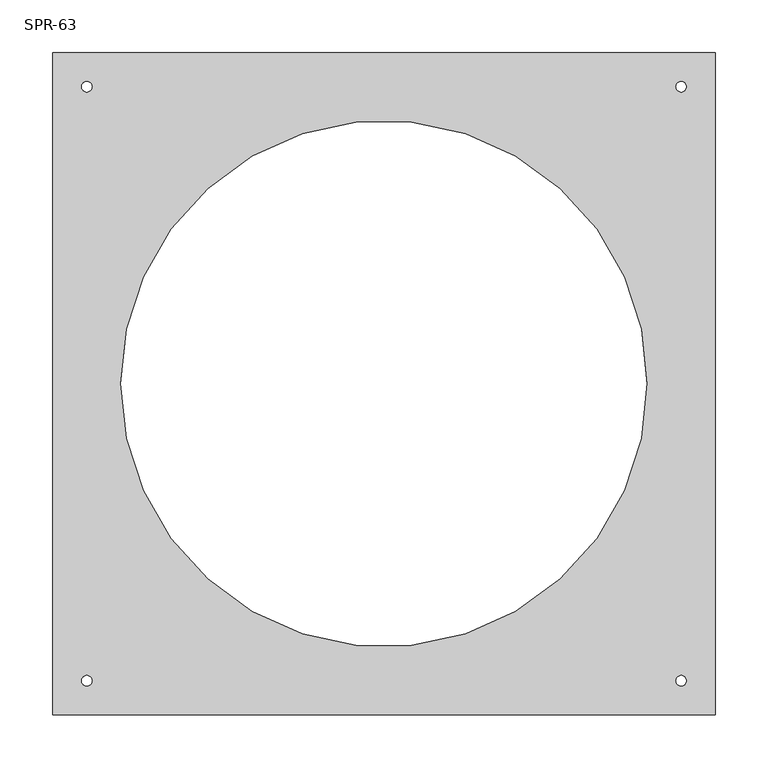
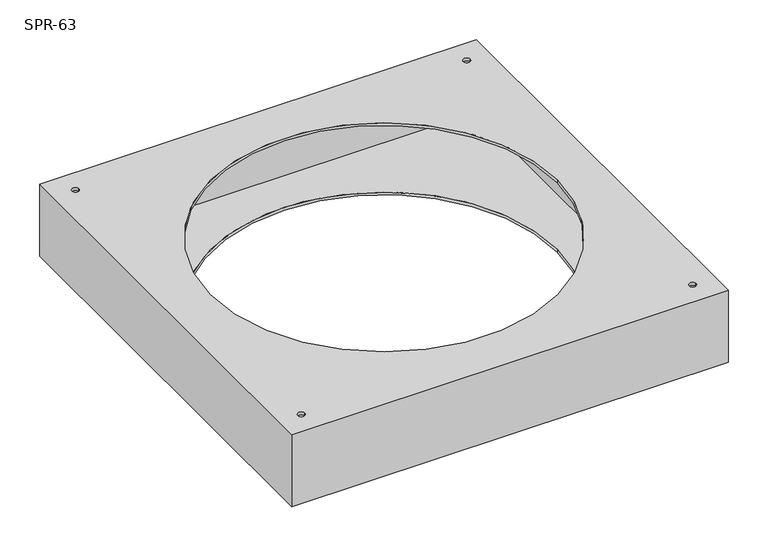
"""IFC4 building model written with IfcOpenShell, lengths in millimetres: damper geometry, СВ_КлапанИнерционный_КрышныйПрямоугольный_30-100_SPR : SPR-63."""

from ifc_helpers import new_model, si_unit, frame, origin, place, context, project, spatial, polyline, circle_curve, source, transform, mapped, element, save
from ifc_brep_helpers import plane_surface, revolved_surface, advanced_brep


def spr_63_234a094d(model_context):
    return source(origin(), model_context, "Body", "AdvancedBrep", [
        advanced_brep(
        [(315.0, 315.0, 0.0), (-315.0, 315.0, 0.0), (-315.0, -315.0, 0.0), (315.0, -315.0, 0.0), (-250.0, 0.0, 0.0), (250.0, 0.0, 0.0), (-277.5, -282.5, 0.0), (-287.5, -282.5, 0.0), (287.5, -282.5, 0.0), (277.5, -282.5, 0.0), (287.5, 282.5, 0.0), (277.5, 282.5, 0.0), (-277.5, 282.5, 0.0), (-287.5, 282.5, 0.0), (315.0, 315.0, -110.0), (315.0, -315.0, -110.0), (-315.0, -315.0, -110.0), (-315.0, 315.0, -110.0), (-250.0, 0.0, -110.0), (250.0, 0.0, -110.0), (-287.5, -282.5, -110.0), (-277.5, -282.5, -110.0), (277.5, -282.5, -110.0), (287.5, -282.5, -110.0), (277.5, 282.5, -110.0), (287.5, 282.5, -110.0), (-287.5, 282.5, -110.0), (-277.5, 282.5, -110.0), (-250.0, 0.0, -4.0), (250.0, 0.0, -4.0), (250.0, 0.0, -106.0), (-250.0, 0.0, -106.0), (310.0, 310.0, -4.0), (310.0, -310.0, -4.0), (-310.0, -310.0, -4.0), (-310.0, 310.0, -4.0), (-287.5, -282.5, -4.0), (-277.5, -282.5, -4.0), (277.5, -282.5, -4.0), (287.5, -282.5, -4.0), (277.5, 282.5, -4.0), (287.5, 282.5, -4.0), (-287.5, 282.5, -4.0), (-277.5, 282.5, -4.0), (310.0, 310.0, -106.0), (-310.0, 310.0, -106.0), (-310.0, -310.0, -106.0), (310.0, -310.0, -106.0), (-277.5, -282.5, -106.0), (-287.5, -282.5, -106.0), (287.5, -282.5, -106.0), (277.5, -282.5, -106.0), (287.5, 282.5, -106.0), (277.5, 282.5, -106.0), (-277.5, 282.5, -106.0), (-287.5, 282.5, -106.0)],
        [
            (0, 1),
            (1, 2),
            (2, 3),
            (3, 0),
            (4, 5, circle_curve(frame((0.0, 0.0, 0.0), z_axis=(0.0, 0.0, -1.0), x_axis=(1.0, 0.0, 0.0)), 250.0)),
            (5, 4, circle_curve(frame((0.0, 0.0, 0.0), z_axis=(0.0, 0.0, -1.0), x_axis=(1.0, 0.0, 0.0)), 250.0)),
            (6, 7, circle_curve(frame((-282.5, -282.5, 0.0), z_axis=(0.0, 0.0, -1.0), x_axis=(1.0, 0.0, 0.0)), 5.0)),
            (7, 6, circle_curve(frame((-282.5, -282.5, 0.0), z_axis=(0.0, 0.0, -1.0), x_axis=(1.0, 0.0, 0.0)), 5.0)),
            (8, 9, circle_curve(frame((282.5, -282.5, 0.0), z_axis=(0.0, 0.0, -1.0), x_axis=(1.0, 0.0, 0.0)), 5.0)),
            (9, 8, circle_curve(frame((282.5, -282.5, 0.0), z_axis=(0.0, 0.0, -1.0), x_axis=(1.0, 0.0, 0.0)), 5.0)),
            (10, 11, circle_curve(frame((282.5, 282.5, 0.0), z_axis=(0.0, 0.0, -1.0), x_axis=(1.0, 0.0, 0.0)), 5.0)),
            (11, 10, circle_curve(frame((282.5, 282.5, 0.0), z_axis=(0.0, 0.0, -1.0), x_axis=(1.0, 0.0, 0.0)), 5.0)),
            (12, 13, circle_curve(frame((-282.5, 282.5, 0.0), z_axis=(0.0, 0.0, -1.0), x_axis=(1.0, 0.0, 0.0)), 5.0)),
            (13, 12, circle_curve(frame((-282.5, 282.5, 0.0), z_axis=(0.0, 0.0, -1.0), x_axis=(1.0, 0.0, 0.0)), 5.0)),
            (14, 15),
            (15, 16),
            (16, 17),
            (17, 14),
            (18, 19, circle_curve(frame((0.0, 0.0, -110.0), z_axis=(0.0, 0.0, 1.0), x_axis=(1.0, 0.0, 0.0)), 250.0)),
            (19, 18, circle_curve(frame((0.0, 0.0, -110.0), z_axis=(0.0, 0.0, 1.0), x_axis=(1.0, 0.0, 0.0)), 250.0)),
            (20, 21, circle_curve(frame((-282.5, -282.5, -110.0), z_axis=(0.0, 0.0, 1.0), x_axis=(1.0, 0.0, 0.0)), 5.0)),
            (21, 20, circle_curve(frame((-282.5, -282.5, -110.0), z_axis=(0.0, 0.0, 1.0), x_axis=(1.0, 0.0, 0.0)), 5.0)),
            (22, 23, circle_curve(frame((282.5, -282.5, -110.0), z_axis=(0.0, 0.0, 1.0), x_axis=(1.0, 0.0, 0.0)), 5.0)),
            (23, 22, circle_curve(frame((282.5, -282.5, -110.0), z_axis=(0.0, 0.0, 1.0), x_axis=(1.0, 0.0, 0.0)), 5.0)),
            (24, 25, circle_curve(frame((282.5, 282.5, -110.0), z_axis=(0.0, 0.0, 1.0), x_axis=(1.0, 0.0, 0.0)), 5.0)),
            (25, 24, circle_curve(frame((282.5, 282.5, -110.0), z_axis=(0.0, 0.0, 1.0), x_axis=(1.0, 0.0, 0.0)), 5.0)),
            (26, 27, circle_curve(frame((-282.5, 282.5, -110.0), z_axis=(0.0, 0.0, 1.0), x_axis=(1.0, 0.0, 0.0)), 5.0)),
            (27, 26, circle_curve(frame((-282.5, 282.5, -110.0), z_axis=(0.0, 0.0, 1.0), x_axis=(1.0, 0.0, 0.0)), 5.0)),
            (0, 14),
            (17, 1),
            (16, 2),
            (15, 3),
            (4, 28),
            (28, 29, circle_curve(frame((0.0, 0.0, -4.0), z_axis=(0.0, 0.0, -1.0), x_axis=(1.0, 0.0, 0.0)), 250.0)),
            (29, 5),
            (19, 30),
            (30, 31, circle_curve(frame((0.0, 0.0, -106.0), z_axis=(0.0, 0.0, 1.0), x_axis=(1.0, 0.0, 0.0)), 250.0)),
            (31, 18),
            (29, 28, circle_curve(frame((0.0, 0.0, -4.0), z_axis=(0.0, 0.0, -1.0), x_axis=(1.0, 0.0, 0.0)), 250.0)),
            (31, 30, circle_curve(frame((0.0, 0.0, -106.0), z_axis=(0.0, 0.0, 1.0), x_axis=(1.0, 0.0, 0.0)), 250.0)),
            (32, 33),
            (33, 34),
            (34, 35),
            (35, 32),
            (36, 37, circle_curve(frame((-282.5, -282.5, -4.0), z_axis=(0.0, 0.0, 1.0), x_axis=(1.0, 0.0, 0.0)), 5.0)),
            (37, 36, circle_curve(frame((-282.5, -282.5, -4.0), z_axis=(0.0, 0.0, 1.0), x_axis=(1.0, 0.0, 0.0)), 5.0)),
            (38, 39, circle_curve(frame((282.5, -282.5, -4.0), z_axis=(0.0, 0.0, 1.0), x_axis=(1.0, 0.0, 0.0)), 5.0)),
            (39, 38, circle_curve(frame((282.5, -282.5, -4.0), z_axis=(0.0, 0.0, 1.0), x_axis=(1.0, 0.0, 0.0)), 5.0)),
            (40, 41, circle_curve(frame((282.5, 282.5, -4.0), z_axis=(0.0, 0.0, 1.0), x_axis=(1.0, 0.0, 0.0)), 5.0)),
            (41, 40, circle_curve(frame((282.5, 282.5, -4.0), z_axis=(0.0, 0.0, 1.0), x_axis=(1.0, 0.0, 0.0)), 5.0)),
            (42, 43, circle_curve(frame((-282.5, 282.5, -4.0), z_axis=(0.0, 0.0, 1.0), x_axis=(1.0, 0.0, 0.0)), 5.0)),
            (43, 42, circle_curve(frame((-282.5, 282.5, -4.0), z_axis=(0.0, 0.0, 1.0), x_axis=(1.0, 0.0, 0.0)), 5.0)),
            (44, 45),
            (45, 46),
            (46, 47),
            (47, 44),
            (48, 49, circle_curve(frame((-282.5, -282.5, -106.0), z_axis=(0.0, 0.0, -1.0), x_axis=(1.0, 0.0, 0.0)), 5.0)),
            (49, 48, circle_curve(frame((-282.5, -282.5, -106.0), z_axis=(0.0, 0.0, -1.0), x_axis=(1.0, 0.0, 0.0)), 5.0)),
            (50, 51, circle_curve(frame((282.5, -282.5, -106.0), z_axis=(0.0, 0.0, -1.0), x_axis=(1.0, 0.0, 0.0)), 5.0)),
            (51, 50, circle_curve(frame((282.5, -282.5, -106.0), z_axis=(0.0, 0.0, -1.0), x_axis=(1.0, 0.0, 0.0)), 5.0)),
            (52, 53, circle_curve(frame((282.5, 282.5, -106.0), z_axis=(0.0, 0.0, -1.0), x_axis=(1.0, 0.0, 0.0)), 5.0)),
            (53, 52, circle_curve(frame((282.5, 282.5, -106.0), z_axis=(0.0, 0.0, -1.0), x_axis=(1.0, 0.0, 0.0)), 5.0)),
            (54, 55, circle_curve(frame((-282.5, 282.5, -106.0), z_axis=(0.0, 0.0, -1.0), x_axis=(1.0, 0.0, 0.0)), 5.0)),
            (55, 54, circle_curve(frame((-282.5, 282.5, -106.0), z_axis=(0.0, 0.0, -1.0), x_axis=(1.0, 0.0, 0.0)), 5.0)),
            (35, 45),
            (44, 32),
            (34, 46),
            (33, 47),
            (36, 7),
            (6, 37),
            (20, 49),
            (48, 21),
            (38, 9),
            (8, 39),
            (22, 51),
            (50, 23),
            (40, 11),
            (10, 41),
            (24, 53),
            (52, 25),
            (42, 13),
            (12, 43),
            (26, 55),
            (54, 27),
        ],
        [
            plane_surface(frame((-315.0, 315.0, 0.0), z_axis=(0.0, 0.0, 1.0), x_axis=(-1.0, 0.0, 0.0))),
            plane_surface(frame((-315.0, 315.0, -110.0), z_axis=(0.0, 0.0, -1.0), x_axis=(1.0, 0.0, 0.0))),
            plane_surface(frame((315.0, 315.0, 0.0), z_axis=(0.0, 1.0, 0.0), x_axis=(0.0, 0.0, -1.0))),
            plane_surface(frame((-315.0, 315.0, 0.0), z_axis=(-1.0, 0.0, 0.0), x_axis=(0.0, 0.0, -1.0))),
            plane_surface(frame((-315.0, -315.0, 0.0), z_axis=(0.0, -1.0, 0.0), x_axis=(0.0, 0.0, -1.0))),
            plane_surface(frame((315.0, -315.0, 0.0), z_axis=(1.0, 0.0, 0.0), x_axis=(0.0, 0.0, -1.0))),
            revolved_surface(polyline([(250.0, 0.0, -4.0), (250.0, 0.0, 0.0)]), (0.0, 0.0, 0.0), (0.0, 0.0, -1.0)),
            revolved_surface(polyline([(250.0, 0.0, -110.0), (250.0, 0.0, -106.0)]), (0.0, 0.0, 0.0), (0.0, 0.0, -1.0)),
            plane_surface(frame((-310.0, 310.0, -4.0), z_axis=(0.0, 0.0, -1.0), x_axis=(-1.0, 0.0, 0.0))),
            plane_surface(frame((-310.0, 310.0, -106.0), z_axis=(0.0, 0.0, 1.0), x_axis=(1.0, 0.0, 0.0))),
            plane_surface(frame((310.0, 310.0, -4.0), z_axis=(0.0, -1.0, 0.0), x_axis=(0.0, 0.0, -1.0))),
            plane_surface(frame((-310.0, 310.0, -4.0), z_axis=(1.0, 0.0, 0.0), x_axis=(0.0, 0.0, -1.0))),
            plane_surface(frame((-310.0, -310.0, -4.0), z_axis=(0.0, 1.0, 0.0), x_axis=(0.0, 0.0, -1.0))),
            plane_surface(frame((310.0, -310.0, -4.0), z_axis=(-1.0, 0.0, 0.0), x_axis=(0.0, 0.0, -1.0))),
            revolved_surface(polyline([(-277.5, -282.5, 0.0), (-277.5, -282.5, -4.0)]), (-282.5, -282.5, -110.0), (0.0, 0.0, 1.0)),
            revolved_surface(polyline([(-277.5, -282.5, -106.0), (-277.5, -282.5, -110.0)]), (-282.5, -282.5, -110.0), (0.0, 0.0, 1.0)),
            revolved_surface(polyline([(287.5, -282.5, 0.0), (287.5, -282.5, -4.0)]), (282.5, -282.5, 0.0), (0.0, 0.0, 1.0)),
            revolved_surface(polyline([(287.5, -282.5, -106.0), (287.5, -282.5, -110.0)]), (282.5, -282.5, 0.0), (0.0, 0.0, 1.0)),
            revolved_surface(polyline([(287.5, 282.5, 0.0), (287.5, 282.5, -4.0)]), (282.5, 282.5, 0.0), (0.0, 0.0, 1.0)),
            revolved_surface(polyline([(287.5, 282.5, -106.0), (287.5, 282.5, -110.0)]), (282.5, 282.5, 0.0), (0.0, 0.0, 1.0)),
            revolved_surface(polyline([(-277.5, 282.5, 0.0), (-277.5, 282.5, -4.0)]), (-282.5, 282.5, 0.0), (0.0, 0.0, 1.0)),
            revolved_surface(polyline([(-277.5, 282.5, -106.0), (-277.5, 282.5, -110.0)]), (-282.5, 282.5, 0.0), (0.0, 0.0, 1.0)),
        ],
        [
            (0, [[1, 2, 3, 4], [5, 6], [7, 8], [9, 10], [11, 12], [13, 14]]),
            (1, [[15, 16, 17, 18], [19, 20], [21, 22], [23, 24], [25, 26], [27, 28]]),
            (2, [[-1, 29, -18, 30]]),
            (3, [[-2, -30, -17, 31]]),
            (4, [[-3, -31, -16, 32]]),
            (5, [[-4, -32, -15, -29]]),
            (6, [[-5, 33, 34, 35]]),
            (7, [[-20, 36, 37, 38]]),
            (6, [[-6, -35, 39, -33]]),
            (7, [[-19, -38, 40, -36]]),
            (8, [[41, 42, 43, 44], [-34, -39], [45, 46], [47, 48], [49, 50], [51, 52]]),
            (9, [[53, 54, 55, 56], [-37, -40], [57, 58], [59, 60], [61, 62], [63, 64]]),
            (10, [[-44, 65, -53, 66]]),
            (11, [[-43, 67, -54, -65]]),
            (12, [[-42, 68, -55, -67]]),
            (13, [[-41, -66, -56, -68]]),
            (14, [[69, -7, 70, -45]]),
            (15, [[71, -57, 72, -21]]),
            (14, [[-69, -46, -70, -8]]),
            (15, [[-71, -22, -72, -58]]),
            (16, [[73, -9, 74, -47]]),
            (17, [[75, -59, 76, -23]]),
            (16, [[-73, -48, -74, -10]]),
            (17, [[-75, -24, -76, -60]]),
            (18, [[77, -11, 78, -49]]),
            (19, [[79, -61, 80, -25]]),
            (18, [[-77, -50, -78, -12]]),
            (19, [[-79, -26, -80, -62]]),
            (20, [[81, -13, 82, -51]]),
            (21, [[83, -63, 84, -27]]),
            (20, [[-81, -52, -82, -14]]),
            (21, [[-83, -28, -84, -64]]),
        ],
    ),
    ])


if __name__ == "__main__":
    model = new_model("IFC4")
    model_context = context("Model", 3, world=origin())
    ifc_project = project(units=[si_unit("LENGTHUNIT", "METRE", prefix="MILLI")], contexts=[model_context])
    site = spatial("IfcSite", under=ifc_project)
    building = spatial("IfcBuilding", under=site)
    placement = place(None, origin())
    spr_63_shape = spr_63_234a094d(model_context)
    element("IfcDamper", 1, ObjectType="СВ_КлапанИнерционный_КрышныйПрямоугольный_30-100_SPR : SPR-63", at=placement, inside=building, context=model_context, shape_type="MappedRepresentation", body=[
        mapped(spr_63_shape, transform((0.0, 0.0, 0.0), x_axis=(1.0, 0.0, 0.0), y_axis=(0.0, 1.0, 0.0), z_axis=(0.0, 0.0, 1.0))),
    ])
    save(model, "model.ifc")
